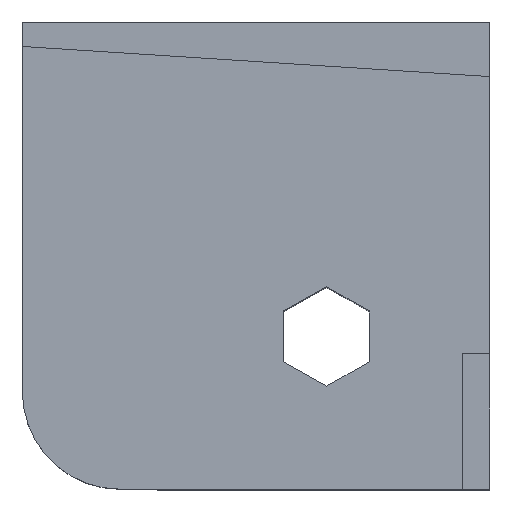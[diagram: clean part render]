
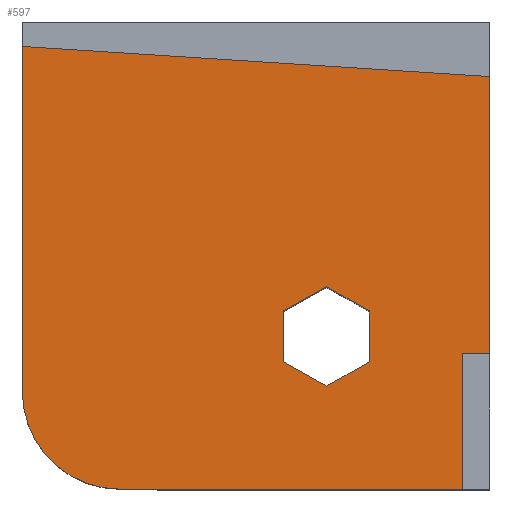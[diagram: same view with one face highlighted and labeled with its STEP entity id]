
A CAD part, top view. The second image highlights one B-rep face of the part: STEP entity #597.
In plain terms, the highlighted planar face has unit normal (0, 0, 1).
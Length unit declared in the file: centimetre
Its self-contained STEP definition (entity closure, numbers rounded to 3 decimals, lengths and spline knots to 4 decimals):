
#23 = VERTEX_POINT ( 'NONE', #168 ) ;
#26 = CARTESIAN_POINT ( 'NONE',  ( 0., 947.3396, 1000. ) ) ;
#31 = ORIENTED_EDGE ( 'NONE', *, *, #75, .F. ) ;
#44 = DIRECTION ( 'NONE',  ( -1., 0., 0. ) ) ;
#60 = DIRECTION ( 'NONE',  ( -0.869, -0.494, 0. ) ) ;
#70 = CARTESIAN_POINT ( 'NONE',  ( 558.4503, 381.3406, 1000. ) ) ;
#75 = EDGE_CURVE ( 'NONE', #487, #743, #180, .T. ) ;
#91 = EDGE_CURVE ( 'NONE', #487, #686, #595, .T. ) ;
#96 = FACE_BOUND ( 'NONE', #819, .T. ) ;
#99 = ORIENTED_EDGE ( 'NONE', *, *, #660, .T. ) ;
#111 = CARTESIAN_POINT ( 'NONE',  ( 651.2498, 433.2712, 1000. ) ) ;
#127 = CARTESIAN_POINT ( 'NONE',  ( 0., 208.9479, 1000. ) ) ;
#133 = LINE ( 'NONE', #392, #457 ) ;
#140 = DIRECTION ( 'NONE',  ( 0., 1., 0. ) ) ;
#148 = LINE ( 'NONE', #403, #303 ) ;
#149 = VECTOR ( 'NONE', #255, 100. ) ;
#151 = ORIENTED_EDGE ( 'NONE', *, *, #575, .T. ) ;
#152 = CARTESIAN_POINT ( 'NONE',  ( 941.5773, 290.0451, 1000. ) ) ;
#162 = PLANE ( 'NONE',  #284 ) ;
#168 = CARTESIAN_POINT ( 'NONE',  ( 742.6228, 381.3406, 1000. ) ) ;
#174 = VECTOR ( 'NONE', #140, 100. ) ;
#180 = LINE ( 'NONE', #582, #561 ) ;
#184 = EDGE_CURVE ( 'NONE', #673, #23, #133, .T. ) ;
#186 = DIRECTION ( 'NONE',  ( 0., -1., 0. ) ) ;
#194 = LINE ( 'NONE', #70, #214 ) ;
#196 = DIRECTION ( 'NONE',  ( 0., -1., 0. ) ) ;
#203 = ORIENTED_EDGE ( 'NONE', *, *, #451, .T. ) ;
#206 = LINE ( 'NONE', #260, #174 ) ;
#214 = VECTOR ( 'NONE', #466, 100. ) ;
#220 = CARTESIAN_POINT ( 'NONE',  ( 1000., 1000., 1000. ) ) ;
#224 = DIRECTION ( 'NONE',  ( 0., 1., 0. ) ) ;
#240 = CARTESIAN_POINT ( 'NONE',  ( 651.2498, 220.6072, 1000. ) ) ;
#249 = VECTOR ( 'NONE', #196, 100. ) ;
#255 = DIRECTION ( 'NONE',  ( -0.873, 0.488, 0. ) ) ;
#260 = CARTESIAN_POINT ( 'NONE',  ( 558.4503, 272.5378, 1000. ) ) ;
#263 = EDGE_CURVE ( 'NONE', #477, #759, #709, .T. ) ;
#268 = CARTESIAN_POINT ( 'NONE',  ( 742.6228, 272.5378, 1000. ) ) ;
#281 = EDGE_LOOP ( 'NONE', ( #311, #344, #151, #31, #671, #362, #99 ) ) ;
#284 = AXIS2_PLACEMENT_3D ( 'NONE', #354, #349, #486 ) ;
#291 = FACE_OUTER_BOUND ( 'NONE', #281, .T. ) ;
#303 = VECTOR ( 'NONE', #672, 100. ) ;
#309 = EDGE_CURVE ( 'NONE', #23, #817, #836, .T. ) ;
#311 = ORIENTED_EDGE ( 'NONE', *, *, #761, .F. ) ;
#315 = CARTESIAN_POINT ( 'NONE',  ( 0., 1000., 1000. ) ) ;
#320 = CARTESIAN_POINT ( 'NONE',  ( 0., 0., 1000. ) ) ;
#326 = DIRECTION ( 'NONE',  ( 0.869, -0.494, 0. ) ) ;
#329 = CIRCLE ( 'NONE', #701, 208.9479 ) ;
#344 = ORIENTED_EDGE ( 'NONE', *, *, #263, .F. ) ;
#345 = EDGE_CURVE ( 'NONE', #754, #543, #646, .T. ) ;
#349 = DIRECTION ( 'NONE',  ( 0., 0., 1. ) ) ;
#350 = VERTEX_POINT ( 'NONE', #770 ) ;
#351 = VECTOR ( 'NONE', #524, 100. ) ;
#354 = CARTESIAN_POINT ( 'NONE',  ( 0., 0., 1000. ) ) ;
#362 = ORIENTED_EDGE ( 'NONE', *, *, #531, .T. ) ;
#364 = ORIENTED_EDGE ( 'NONE', *, *, #184, .T. ) ;
#392 = CARTESIAN_POINT ( 'NONE',  ( 651.2498, 433.2712, 1000. ) ) ;
#403 = CARTESIAN_POINT ( 'NONE',  ( 941.5773, 0., 1000. ) ) ;
#411 = CARTESIAN_POINT ( 'NONE',  ( 208.9479, 0., 1000. ) ) ;
#418 = CARTESIAN_POINT ( 'NONE',  ( 208.9479, 208.9479, 1000. ) ) ;
#426 = DIRECTION ( 'NONE',  ( 0.998, -0.064, 0. ) ) ;
#428 = VECTOR ( 'NONE', #44, 100. ) ;
#451 = EDGE_CURVE ( 'NONE', #543, #350, #206, .T. ) ;
#457 = VECTOR ( 'NONE', #326, 100. ) ;
#462 = EDGE_CURVE ( 'NONE', #350, #673, #194, .T. ) ;
#466 = DIRECTION ( 'NONE',  ( 0.873, 0.488, 0. ) ) ;
#477 = VERTEX_POINT ( 'NONE', #681 ) ;
#486 = DIRECTION ( 'NONE',  ( 1., 0., 0. ) ) ;
#487 = VERTEX_POINT ( 'NONE', #26 ) ;
#496 = VERTEX_POINT ( 'NONE', #411 ) ;
#507 = CARTESIAN_POINT ( 'NONE',  ( 1000., 882.9638, 1000. ) ) ;
#524 = DIRECTION ( 'NONE',  ( 1., 0., 0. ) ) ;
#531 = EDGE_CURVE ( 'NONE', #686, #496, #329, .T. ) ;
#543 = VERTEX_POINT ( 'NONE', #615 ) ;
#552 = DIRECTION ( 'NONE',  ( 1., 0., 0. ) ) ;
#557 = VECTOR ( 'NONE', #224, 100. ) ;
#561 = VECTOR ( 'NONE', #426, 100. ) ;
#574 = ORIENTED_EDGE ( 'NONE', *, *, #680, .T. ) ;
#575 = EDGE_CURVE ( 'NONE', #477, #743, #630, .T. ) ;
#582 = CARTESIAN_POINT ( 'NONE',  ( 1000., 882.9638, 1000. ) ) ;
#595 = LINE ( 'NONE', #315, #249 ) ;
#597 = ADVANCED_FACE ( 'NONE', ( #291, #96 ), #162, .T. ) ;
#609 = CARTESIAN_POINT ( 'NONE',  ( 651.2498, 220.6072, 1000. ) ) ;
#615 = CARTESIAN_POINT ( 'NONE',  ( 558.4503, 272.5378, 1000. ) ) ;
#630 = LINE ( 'NONE', #220, #557 ) ;
#636 = CARTESIAN_POINT ( 'NONE',  ( 941.5773, 290.0451, 1000. ) ) ;
#646 = LINE ( 'NONE', #240, #149 ) ;
#660 = EDGE_CURVE ( 'NONE', #496, #737, #718, .T. ) ;
#671 = ORIENTED_EDGE ( 'NONE', *, *, #91, .T. ) ;
#672 = DIRECTION ( 'NONE',  ( 0., -1., 0. ) ) ;
#673 = VERTEX_POINT ( 'NONE', #111 ) ;
#680 = EDGE_CURVE ( 'NONE', #817, #754, #838, .T. ) ;
#681 = CARTESIAN_POINT ( 'NONE',  ( 1000., 290.0451, 1000. ) ) ;
#685 = DIRECTION ( 'NONE',  ( 0., 0., 1. ) ) ;
#686 = VERTEX_POINT ( 'NONE', #127 ) ;
#696 = CARTESIAN_POINT ( 'NONE',  ( 742.6228, 272.5378, 1000. ) ) ;
#701 = AXIS2_PLACEMENT_3D ( 'NONE', #418, #685, #552 ) ;
#709 = LINE ( 'NONE', #636, #428 ) ;
#718 = LINE ( 'NONE', #320, #351 ) ;
#737 = VERTEX_POINT ( 'NONE', #787 ) ;
#743 = VERTEX_POINT ( 'NONE', #507 ) ;
#754 = VERTEX_POINT ( 'NONE', #609 ) ;
#759 = VERTEX_POINT ( 'NONE', #152 ) ;
#760 = ORIENTED_EDGE ( 'NONE', *, *, #345, .T. ) ;
#761 = EDGE_CURVE ( 'NONE', #759, #737, #148, .T. ) ;
#763 = ORIENTED_EDGE ( 'NONE', *, *, #309, .T. ) ;
#765 = VECTOR ( 'NONE', #186, 100. ) ;
#770 = CARTESIAN_POINT ( 'NONE',  ( 558.4503, 381.3406, 1000. ) ) ;
#775 = CARTESIAN_POINT ( 'NONE',  ( 742.6228, 381.3406, 1000. ) ) ;
#787 = CARTESIAN_POINT ( 'NONE',  ( 941.5773, 0., 1000. ) ) ;
#810 = ORIENTED_EDGE ( 'NONE', *, *, #462, .T. ) ;
#817 = VERTEX_POINT ( 'NONE', #268 ) ;
#819 = EDGE_LOOP ( 'NONE', ( #203, #810, #364, #763, #574, #760 ) ) ;
#833 = VECTOR ( 'NONE', #60, 100. ) ;
#836 = LINE ( 'NONE', #775, #765 ) ;
#838 = LINE ( 'NONE', #696, #833 ) ;
